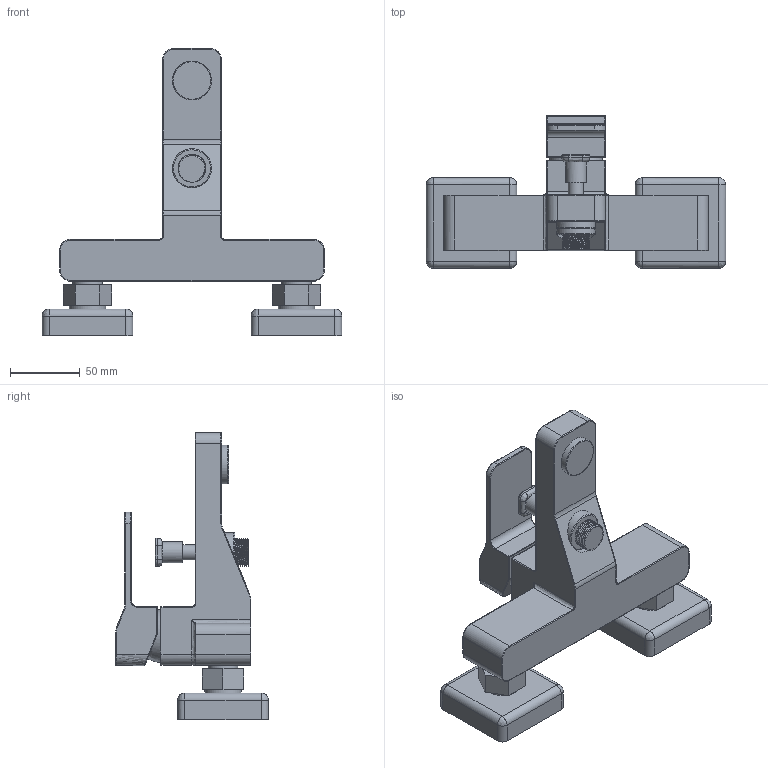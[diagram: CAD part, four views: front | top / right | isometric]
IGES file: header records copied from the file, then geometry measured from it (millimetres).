
Global section: file name: 8c134a64-b309-4bfb-b175-2f131c00f5c0; native system: unknown; preprocessor: unknown; author: unknown; organization: unknown; date: 20191128.070537; units: millimetre
Bounding box: 215 x 109.46 x 206 mm (x, y, z)
Volume: 686220.8 mm3; surface area: 111602.7 mm2
Topology: 15 solids, 15 shells, 263 faces, 564 edges, 334 vertices
Faces by surface type: bspline 263
